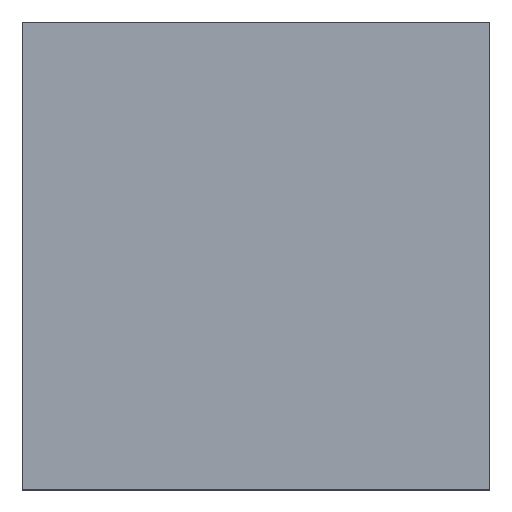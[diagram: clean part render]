
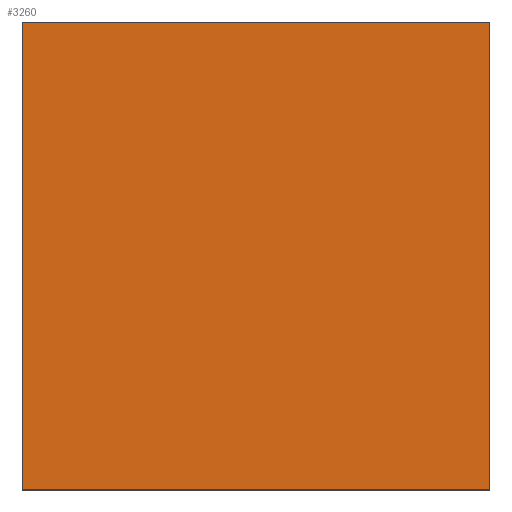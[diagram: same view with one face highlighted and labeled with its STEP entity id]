
A CAD part, top view. The second image highlights one B-rep face of the part: STEP entity #3260.
In plain terms, the highlighted planar face has unit normal (0, 0, 1).
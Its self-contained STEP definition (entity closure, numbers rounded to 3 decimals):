
#120 = CARTESIAN_POINT ('', (25., -25., 14.));
#130 = VERTEX_POINT ('', #120);
#190 = CARTESIAN_POINT ('', (-25., -25., 14.));
#200 = VERTEX_POINT ('', #190);
#210 = CARTESIAN_POINT ('', (-25., -25., 14.));
#220 = CARTESIAN_POINT ('', (-8.333, -25., 14.));
#230 = CARTESIAN_POINT ('', (8.333, -25., 14.));
#240 = CARTESIAN_POINT ('', (25., -25., 14.));
#250 = B_SPLINE_CURVE_WITH_KNOTS ('', 3, (#210, #220, #230, #240), .UNSPECIFIED., .F., .U., (4, 4), (0., 50.), .UNSPECIFIED.);
#260 = EDGE_CURVE ('', #200, #130, #250, .T.);
#660 = CARTESIAN_POINT ('', (25., 25., 14.));
#670 = VERTEX_POINT ('', #660);
#730 = CARTESIAN_POINT ('', (25., -25., 14.));
#740 = CARTESIAN_POINT ('', (25., -8.333, 14.));
#750 = CARTESIAN_POINT ('', (25., 8.333, 14.));
#760 = CARTESIAN_POINT ('', (25., 25., 14.));
#770 = B_SPLINE_CURVE_WITH_KNOTS ('', 3, (#730, #740, #750, #760), .UNSPECIFIED., .F., .U., (4, 4), (0., 50.), .UNSPECIFIED.);
#780 = EDGE_CURVE ('', #130, #670, #770, .T.);
#1340 = CARTESIAN_POINT ('', (-25., 25., 14.));
#1350 = VERTEX_POINT ('', #1340);
#1410 = CARTESIAN_POINT ('', (25., 25., 14.));
#1420 = CARTESIAN_POINT ('', (8.333, 25., 14.));
#1430 = CARTESIAN_POINT ('', (-8.333, 25., 14.));
#1440 = CARTESIAN_POINT ('', (-25., 25., 14.));
#1450 = B_SPLINE_CURVE_WITH_KNOTS ('', 3, (#1410, #1420, #1430, #1440), .UNSPECIFIED., .F., .U., (4, 4), (0., 50.), .UNSPECIFIED.);
#1460 = EDGE_CURVE ('', #670, #1350, #1450, .T.);
#1810 = CARTESIAN_POINT ('', (-25., 25., 14.));
#1820 = CARTESIAN_POINT ('', (-25., 8.333, 14.));
#1830 = CARTESIAN_POINT ('', (-25., -8.333, 14.));
#1840 = CARTESIAN_POINT ('', (-25., -25., 14.));
#1850 = B_SPLINE_CURVE_WITH_KNOTS ('', 3, (#1810, #1820, #1830, #1840), .UNSPECIFIED., .F., .U., (4, 4), (0., 50.), .UNSPECIFIED.);
#1860 = EDGE_CURVE ('', #1350, #200, #1850, .T.);
#3150 = ORIENTED_EDGE ('', *, *, #260, .T.);
#3160 = ORIENTED_EDGE ('', *, *, #780, .T.);
#3170 = ORIENTED_EDGE ('', *, *, #1460, .T.);
#3180 = ORIENTED_EDGE ('', *, *, #1860, .T.);
#3190 = EDGE_LOOP ('', (#3150, #3160, #3170, #3180));
#3200 = FACE_OUTER_BOUND ('', #3190, .T.);
#3210 = CARTESIAN_POINT ('', (0., 51.204, 14.));
#3220 = DIRECTION ('', (0., 0., 1.));
#3230 = DIRECTION ('', (-0.707, -0.707, 0.));
#3240 = AXIS2_PLACEMENT_3D ('', #3210, #3220, #3230);
#3250 = PLANE ('', #3240);
#3260 = ADVANCED_FACE ('', (#3200), #3250, .T.);
